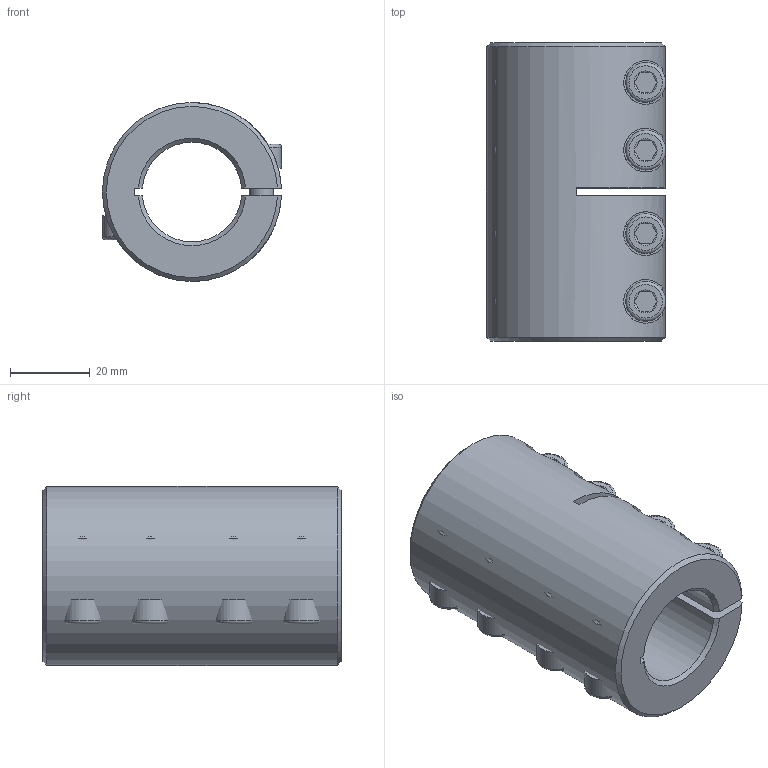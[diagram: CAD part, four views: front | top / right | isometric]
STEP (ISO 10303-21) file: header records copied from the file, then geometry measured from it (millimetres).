
FILE_DESCRIPTION( ( 'Unknown' ), '1' );
FILE_NAME( 'K:/Konstruktion/Fertigungszeichnungen/Schalenkupplung/KBST/KBST-25.stp', 'Unknown', ( 'Unknown' ), ( 'Unknown' ), 'PSStep 16.0.42', 'Unknown', ' ' );
FILE_SCHEMA( ( 'AUTOMOTIVE_DESIGN { 1 0 10303 214 1 1 1 1 }' ) );
Length unit declared in the file: millimetre
Products named in the file (3): Assem1; ISO EN DIN 4762 M6x16; KBST-25
Assembly tree (9 placements, depth 2):
  Assem1
    ISO EN DIN 4762 M6x16  x8
    KBST-25
Bounding box: 45 x 75 x 45 mm (x, y, z)
Volume: 81620.6 mm3; surface area: 27743 mm2
Topology: 9 solids, 9 shells, 240 faces, 450 edges, 264 vertices
Faces by surface type: plane 115, cone 62, cylinder 47, torus 16
Full cylindrical faces by diameter (mm): 4.917 x4, 5 x8, 6 x16, 7 x4, 10 x8
Entity records: 2904 total; most frequent: CARTESIAN_POINT 873, DIRECTION 306, ORIENTED_EDGE 258, EDGE_CURVE 129, AXIS2_PLACEMENT_3D 128, EDGE_LOOP 104, VERTEX_POINT 91, FACE_OUTER_BOUND 79
